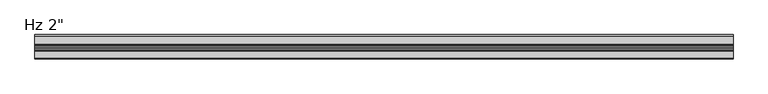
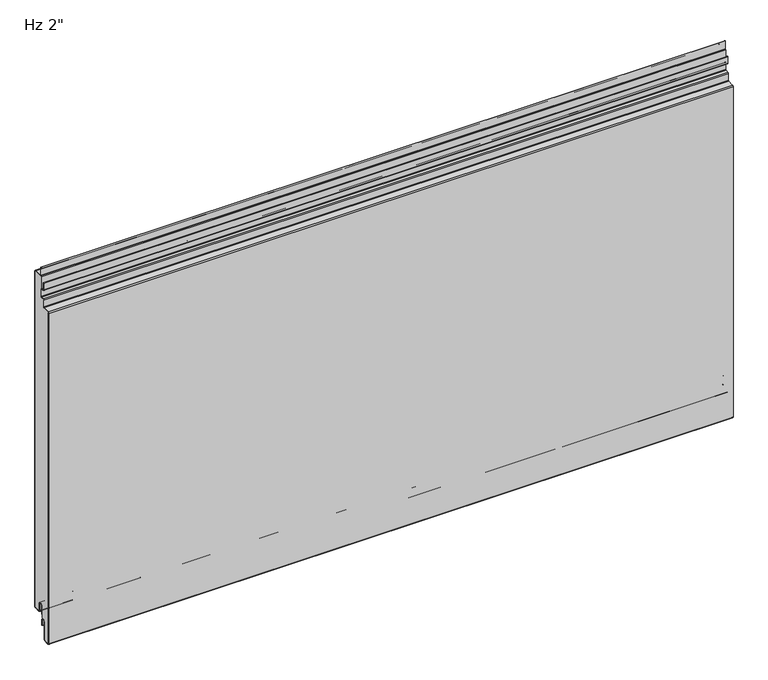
"""IFC4 building model written with IfcOpenShell, lengths in millimetres: plate geometry."""

from ifc_helpers import new_model, si_unit, point, frame, frame_2d, origin, place, context, project, spatial, polyline, circle_curve, ellipse_curve, trimmed, segment, composite_curve, outline, extrude, source, transform, mapped, element, save
from ifc_brep_helpers import plane_surface, cylinder_surface, revolved_surface, extruded_surface, advanced_brep


def plate_e706f19b(model_context):
    return source(origin(), model_context, "Body", "SolidModel", [
        extrude(outline(composite_curve([segment(polyline([(-22.8125, 716.9620957), (-22.8125, 760.20625), (-2.38125, 760.20625)]), True, "CONTINUOUS"), segment(trimmed(circle_curve(frame_2d((-2.38125, 758.825)), 1.38125), [point((-2.38125, 760.20625))], [point((-1.0, 758.825))], False, "CARTESIAN"), True, "CONTINUOUS"), segment(polyline([(-1.0, 758.825), (-1.0, 3.175)]), True, "CONTINUOUS"), segment(trimmed(circle_curve(frame_2d((-2.38125, 3.175)), 1.38125), [point((-1.0, 3.175))], [point((-2.38125, 1.79375))], False, "CARTESIAN"), True, "CONTINUOUS"), segment(polyline([(-2.38125, 1.79375), (-15.08125, 1.79375)]), True, "CONTINUOUS"), segment(trimmed(circle_curve(frame_2d((-15.08125, 3.175)), 1.38125), [point((-15.08125, 1.79375))], [point((-16.4625, 3.175))], False, "CARTESIAN"), True, "CONTINUOUS"), segment(polyline([(-16.4625, 3.175), (-16.4625, 19.05)]), True, "CONTINUOUS"), segment(trimmed(circle_curve(frame_2d((-21.43125, 19.05)), 4.96875), [point((-16.4625, 19.05))], [point((-26.4, 19.05))], True, "CARTESIAN"), True, "CONTINUOUS"), segment(polyline([(-26.4, 19.05), (-26.4, -6.9375), (-30.95625, -6.9375)]), True, "CONTINUOUS"), segment(trimmed(circle_curve(frame_2d((-30.95625, -11.90625)), 4.96875), [point((-30.95625, -6.9375))], [point((-35.925, -11.90625))], True, "CARTESIAN"), True, "CONTINUOUS"), segment(polyline([(-35.925, -11.90625), (-35.925, -50.0895546)]), True, "CONTINUOUS"), segment(trimmed(circle_curve(frame_2d((-37.30625, -50.0895546)), 1.38125), [point((-35.925, -50.0895546))], [point((-37.233961, -51.4689117))], False, "CARTESIAN"), True, "CONTINUOUS"), segment(polyline([(-37.233961, -51.4689117), (-48.346461, -52.0512931)]), True, "CONTINUOUS"), segment(trimmed(circle_curve(frame_2d((-48.41875, -50.6719361)), 1.38125), [point((-48.346461, -52.0512931))], [point((-49.8, -50.6719361))], False, "CARTESIAN"), True, "CONTINUOUS"), segment(polyline([(-49.8, -50.6719361), (-49.8, 693.8447607)]), True, "CONTINUOUS"), segment(trimmed(circle_curve(frame_2d((-48.41875, 693.8447607)), 1.38125), [point((-49.8, 693.8447607))], [point((-48.491039, 695.2241177))], False, "CARTESIAN"), True, "CONTINUOUS"), segment(polyline([(-48.491039, 695.2241177), (-34.7895807, 695.9421807)]), True, "CONTINUOUS"), segment(trimmed(circle_curve(frame_2d((-34.925, 698.5261347)), 2.5875), [point((-34.7895807, 695.9421807))], [point((-32.3375, 698.5261347))], True, "CARTESIAN"), True, "CONTINUOUS"), segment(polyline([(-32.3375, 698.5261347), (-32.3375, 712.6967085)]), True, "CONTINUOUS"), segment(trimmed(circle_curve(frame_2d((-30.95625, 712.6967085)), 1.38125), [point((-32.3375, 712.6967085))], [point((-31.028539, 714.0760655))], False, "CARTESIAN"), True, "CONTINUOUS"), segment(polyline([(-31.028539, 714.0760655), (-25.2645807, 714.3781418)]), True, "CONTINUOUS"), segment(trimmed(circle_curve(frame_2d((-25.4, 716.9620957)), 2.5875), [point((-25.2645807, 714.3781418))], [point((-22.8125, 716.9620957))], True, "CARTESIAN"), True, "CONTINUOUS")], self_intersect=False)), frame((-730.0, 0.0, 0.0), z_axis=(1.0, 0.0, 0.0), x_axis=(0.0, 1.0, 0.0)), (0.0, 0.0, 1.0), 1460.0),
        extrude(outline(composite_curve([segment(polyline([(-25.4, 0.79375), (-26.4, 0.79375), (-26.4, 19.05)]), True, "CONTINUOUS"), segment(trimmed(circle_curve(frame_2d((-21.43125, 19.05)), 4.96875), [point((-26.4, 19.05))], [point((-16.4625, 19.05))], False, "CARTESIAN"), True, "CONTINUOUS"), segment(polyline([(-16.4625, 19.05), (-16.4625, 3.175)]), True, "CONTINUOUS"), segment(trimmed(circle_curve(frame_2d((-15.08125, 3.175)), 1.38125), [point((-16.4625, 3.175))], [point((-15.08125, 1.79375))], True, "CARTESIAN"), True, "CONTINUOUS"), segment(polyline([(-15.08125, 1.79375), (-2.38125, 1.79375)]), True, "CONTINUOUS"), segment(trimmed(circle_curve(frame_2d((-2.38125, 3.175)), 1.38125), [point((-2.38125, 1.79375))], [point((-1.0, 3.175))], True, "CARTESIAN"), True, "CONTINUOUS"), segment(polyline([(-1.0, 3.175), (-1.0, 758.825)]), True, "CONTINUOUS"), segment(trimmed(circle_curve(frame_2d((-2.38125, 758.825)), 1.38125), [point((-1.0, 758.825))], [point((-2.38125, 760.20625))], True, "CARTESIAN"), True, "CONTINUOUS"), segment(polyline([(-2.38125, 760.20625), (-19.446875, 760.20625)]), True, "CONTINUOUS"), segment(trimmed(circle_curve(frame_2d((-19.446875, 762.79375)), 2.5875), [point((-19.446875, 760.20625))], [point((-22.034375, 762.79375))], False, "CARTESIAN"), True, "CONTINUOUS"), segment(polyline([(-22.034375, 762.79375), (-22.034375, 780.25625), (-21.034375, 780.25625), (-21.034375, 762.79375)]), True, "CONTINUOUS"), segment(trimmed(circle_curve(frame_2d((-19.446875, 762.79375)), 1.5875), [point((-21.034375, 762.79375))], [point((-19.446875, 761.20625))], True, "CARTESIAN"), True, "CONTINUOUS"), segment(polyline([(-19.446875, 761.20625), (-2.38125, 761.20625)]), True, "CONTINUOUS"), segment(trimmed(circle_curve(frame_2d((-2.38125, 758.825)), 2.38125), [point((-2.38125, 761.20625))], [point((0.0, 758.825))], False, "CARTESIAN"), True, "CONTINUOUS"), segment(polyline([(0.0, 758.825), (0.0, 3.175)]), True, "CONTINUOUS"), segment(trimmed(circle_curve(frame_2d((-2.38125, 3.175)), 2.38125), [point((0.0, 3.175))], [point((-2.38125, 0.79375))], False, "CARTESIAN"), True, "CONTINUOUS"), segment(polyline([(-2.38125, 0.79375), (-15.08125, 0.79375)]), True, "CONTINUOUS"), segment(trimmed(circle_curve(frame_2d((-15.08125, 3.175)), 2.38125), [point((-15.08125, 0.79375))], [point((-17.4625, 3.175))], False, "CARTESIAN"), True, "CONTINUOUS"), segment(polyline([(-17.4625, 3.175), (-17.4625, 19.05)]), True, "CONTINUOUS"), segment(trimmed(circle_curve(frame_2d((-21.43125, 19.05)), 3.96875), [point((-17.4625, 19.05))], [point((-25.4, 19.05))], True, "CARTESIAN"), True, "CONTINUOUS"), segment(polyline([(-25.4, 19.05), (-25.4, 0.79375)]), True, "CONTINUOUS")], self_intersect=False)), frame((-730.0, 0.0, 0.0), z_axis=(1.0, 0.0, 0.0), x_axis=(0.0, 1.0, 0.0)), (0.0, 0.0, 1.0), 1460.0),
        advanced_brep(
        [(-730.0, -25.4, -23.2314549), (-730.0, -26.9875, -23.2314549), (-730.0, -26.9875, -11.9205174), (-730.0, -34.925, -11.9205174), (-730.0, -34.925, -50.1038221), (-730.0, -37.181625, -52.4818086), (-730.0, -48.294125, -53.0641901), (-730.0, -50.8, -50.6862035), (-730.0, -50.8, 693.8447607), (-730.0, -48.543375, 696.2227473), (-730.0, -34.8419167, 696.9408103), (-730.0, -33.3375, 698.5261347), (-730.0, -33.3375, 712.6824411), (-730.0, -31.080875, 715.0604276), (-730.0, -25.3169167, 715.3625039), (-730.0, -23.8125, 716.9478283), (-730.0, -23.8125, 731.8232326), (-730.0, -25.4, 733.4107326), (-730.0, -29.5671875, 733.4107326), (-730.0, -31.9484375, 735.7919826), (-730.0, -31.9484375, 750.2836032), (-730.0, -30.1546875, 750.2836032), (-730.0, -30.1546875, 740.5544826), (-730.0, -30.9484375, 740.5544826), (-730.0, -30.9484375, 735.7919826), (-730.0, -29.5671875, 734.4107326), (-730.0, -25.4, 734.4107326), (-730.0, -22.8125, 731.8232326), (-730.0, -22.8125, 716.9478283), (-730.0, -25.2645807, 714.3638744), (-730.0, -31.028539, 714.0617981), (-730.0, -32.3375, 712.6824411), (-730.0, -32.3375, 698.5261347), (-730.0, -34.7895807, 695.9421807), (-730.0, -48.491039, 695.2241177), (-730.0, -49.8, 693.8447607), (-730.0, -49.8, -50.6862035), (-730.0, -48.346461, -52.0655606), (-730.0, -37.233961, -51.4831791), (-730.0, -35.925, -50.1038221), (-730.0, -35.925, -11.9205174), (-730.0, -25.9875, -11.9205174), (-730.0, -26.19375, -13.5080174), (-730.0, -25.4, -13.5080174), (730.0, -25.4, -23.2314549), (730.0, -25.4, -13.5080174), (730.0, -26.19375, -13.5080174), (730.0, -25.9875, -11.9205174), (730.0, -35.925, -11.9205174), (730.0, -35.925, -50.1038221), (730.0, -37.233961, -51.4831791), (730.0, -48.346461, -52.0655606), (730.0, -49.8, -50.6862035), (730.0, -49.8, 693.8447607), (730.0, -48.491039, 695.2241177), (730.0, -34.7895807, 695.9421807), (730.0, -32.3375, 698.5261347), (730.0, -32.3375, 712.6824411), (730.0, -31.028539, 714.0617981), (730.0, -25.2645807, 714.3638744), (730.0, -22.8125, 716.9478283), (730.0, -22.8125, 731.8232326), (730.0, -25.4, 734.4107326), (730.0, -29.5671875, 734.4107326), (730.0, -30.9484375, 735.7919826), (730.0, -30.9484375, 740.5544826), (730.0, -30.1546875, 740.5544826), (730.0, -30.1546875, 750.2836032), (730.0, -31.9484375, 750.2836032), (730.0, -31.9484375, 735.7919826), (730.0, -29.5671875, 733.4107326), (730.0, -25.4, 733.4107326), (730.0, -23.8125, 731.8232326), (730.0, -23.8125, 716.9478283), (730.0, -25.3169167, 715.3625039), (730.0, -31.080875, 715.0604276), (730.0, -33.3375, 712.6824411), (730.0, -33.3375, 698.5261347), (730.0, -34.8419167, 696.9408103), (730.0, -48.543375, 696.2227473), (730.0, -50.8, 693.8447607), (730.0, -50.8, -50.6862035), (730.0, -48.294125, -53.0641901), (730.0, -37.181625, -52.4818086), (730.0, -34.925, -50.1038221), (730.0, -34.925, -11.9205174), (730.0, -26.9875, -11.9205174), (730.0, -26.9875, -23.2314549)],
        [
            (0, 1, circle_curve(frame((-730.0, -26.19375, -23.2314549), z_axis=(-1.0, 0.0, 0.0), x_axis=(0.0, 0.0, -1.0)), 0.79375)),
            (1, 2),
            (2, 3, circle_curve(frame((-730.0, -30.95625, -11.9205174), z_axis=(1.0, 0.0, 0.0), x_axis=(0.0, 0.0, -1.0)), 3.96875)),
            (3, 4),
            (4, 5, circle_curve(frame((-730.0, -37.30625, -50.1038221), z_axis=(-1.0, 0.0, 0.0), x_axis=(0.0, 0.0, -1.0)), 2.38125)),
            (5, 6),
            (6, 7, circle_curve(frame((-730.0, -48.41875, -50.6862035), z_axis=(-1.0, 0.0, 0.0), x_axis=(0.0, 0.0, -1.0)), 2.38125)),
            (7, 8),
            (8, 9, circle_curve(frame((-730.0, -48.41875, 693.8447607), z_axis=(-1.0, 0.0, 0.0), x_axis=(0.0, 0.0, -1.0)), 2.38125)),
            (9, 10),
            (10, 11, circle_curve(frame((-730.0, -34.925, 698.5261347), z_axis=(1.0, 0.0, 0.0), x_axis=(0.0, 0.0, -1.0)), 1.5875)),
            (11, 12),
            (12, 13, circle_curve(frame((-730.0, -30.95625, 712.6824411), z_axis=(-1.0, 0.0, 0.0), x_axis=(0.0, 0.0, -1.0)), 2.38125)),
            (13, 14),
            (14, 15, circle_curve(frame((-730.0, -25.4, 716.9478283), z_axis=(1.0, 0.0, 0.0), x_axis=(0.0, 0.0, -1.0)), 1.5875)),
            (15, 16),
            (16, 17, circle_curve(frame((-730.0, -25.4, 731.8232326), z_axis=(1.0, 0.0, 0.0), x_axis=(0.0, 0.0, -1.0)), 1.5875)),
            (17, 18),
            (18, 19, circle_curve(frame((-730.0, -29.5671875, 735.7919826), z_axis=(-1.0, 0.0, 0.0), x_axis=(0.0, 0.0, -1.0)), 2.38125)),
            (19, 20),
            (20, 21, ellipse_curve(frame((-730.0, -31.0515625, 750.2836032), z_axis=(-1.0, 0.0, 0.0), x_axis=(0.0, 1.0, 0.0)), 0.896875, 0.7852275)),
            (21, 22),
            (22, 23),
            (23, 24),
            (24, 25, circle_curve(frame((-730.0, -29.5671875, 735.7919826), z_axis=(1.0, 0.0, 0.0), x_axis=(0.0, 0.0, -1.0)), 1.38125)),
            (25, 26),
            (26, 27, circle_curve(frame((-730.0, -25.4, 731.8232326), z_axis=(-1.0, 0.0, 0.0), x_axis=(0.0, 0.0, -1.0)), 2.5875)),
            (27, 28),
            (28, 29, circle_curve(frame((-730.0, -25.4, 716.9478283), z_axis=(-1.0, 0.0, 0.0), x_axis=(0.0, 0.0, -1.0)), 2.5875)),
            (29, 30),
            (30, 31, circle_curve(frame((-730.0, -30.95625, 712.6824411), z_axis=(1.0, 0.0, 0.0), x_axis=(0.0, 0.0, -1.0)), 1.38125)),
            (31, 32),
            (32, 33, circle_curve(frame((-730.0, -34.925, 698.5261347), z_axis=(-1.0, 0.0, 0.0), x_axis=(0.0, 0.0, -1.0)), 2.5875)),
            (33, 34),
            (34, 35, circle_curve(frame((-730.0, -48.41875, 693.8447607), z_axis=(1.0, 0.0, 0.0), x_axis=(0.0, 0.0, -1.0)), 1.38125)),
            (35, 36),
            (36, 37, circle_curve(frame((-730.0, -48.41875, -50.6862035), z_axis=(1.0, 0.0, 0.0), x_axis=(0.0, 0.0, -1.0)), 1.38125)),
            (37, 38),
            (38, 39, circle_curve(frame((-730.0, -37.30625, -50.1038221), z_axis=(1.0, 0.0, 0.0), x_axis=(0.0, 0.0, -1.0)), 1.38125)),
            (39, 40),
            (40, 41, circle_curve(frame((-730.0, -30.95625, -11.9205174), z_axis=(-1.0, 0.0, 0.0), x_axis=(0.0, 0.0, -1.0)), 4.96875)),
            (41, 42),
            (42, 43),
            (43, 0),
            (44, 45),
            (45, 46),
            (46, 47),
            (47, 48, circle_curve(frame((730.0, -30.95625, -11.9205174), z_axis=(1.0, 0.0, 0.0), x_axis=(0.0, 0.0, -1.0)), 4.96875)),
            (48, 49),
            (49, 50, circle_curve(frame((730.0, -37.30625, -50.1038221), z_axis=(-1.0, 0.0, 0.0), x_axis=(0.0, 0.0, -1.0)), 1.38125)),
            (50, 51),
            (51, 52, circle_curve(frame((730.0, -48.41875, -50.6862035), z_axis=(-1.0, 0.0, 0.0), x_axis=(0.0, 0.0, -1.0)), 1.38125)),
            (52, 53),
            (53, 54, circle_curve(frame((730.0, -48.41875, 693.8447607), z_axis=(-1.0, 0.0, 0.0), x_axis=(0.0, 0.0, -1.0)), 1.38125)),
            (54, 55),
            (55, 56, circle_curve(frame((730.0, -34.925, 698.5261347), z_axis=(1.0, 0.0, 0.0), x_axis=(0.0, 0.0, -1.0)), 2.5875)),
            (56, 57),
            (57, 58, circle_curve(frame((730.0, -30.95625, 712.6824411), z_axis=(-1.0, 0.0, 0.0), x_axis=(0.0, 0.0, -1.0)), 1.38125)),
            (58, 59),
            (59, 60, circle_curve(frame((730.0, -25.4, 716.9478283), z_axis=(1.0, 0.0, 0.0), x_axis=(0.0, 0.0, -1.0)), 2.5875)),
            (60, 61),
            (61, 62, circle_curve(frame((730.0, -25.4, 731.8232326), z_axis=(1.0, 0.0, 0.0), x_axis=(0.0, 0.0, -1.0)), 2.5875)),
            (62, 63),
            (63, 64, circle_curve(frame((730.0, -29.5671875, 735.7919826), z_axis=(-1.0, 0.0, 0.0), x_axis=(0.0, 0.0, -1.0)), 1.38125)),
            (64, 65),
            (65, 66),
            (66, 67),
            (67, 68, ellipse_curve(frame((730.0, -31.0515625, 750.2836032), z_axis=(1.0, 0.0, 0.0), x_axis=(0.0, 1.0, 0.0)), 0.896875, 0.7852275)),
            (68, 69),
            (69, 70, circle_curve(frame((730.0, -29.5671875, 735.7919826), z_axis=(1.0, 0.0, 0.0), x_axis=(0.0, 0.0, -1.0)), 2.38125)),
            (70, 71),
            (71, 72, circle_curve(frame((730.0, -25.4, 731.8232326), z_axis=(-1.0, 0.0, 0.0), x_axis=(0.0, 0.0, -1.0)), 1.5875)),
            (72, 73),
            (73, 74, circle_curve(frame((730.0, -25.4, 716.9478283), z_axis=(-1.0, 0.0, 0.0), x_axis=(0.0, 0.0, -1.0)), 1.5875)),
            (74, 75),
            (75, 76, circle_curve(frame((730.0, -30.95625, 712.6824411), z_axis=(1.0, 0.0, 0.0), x_axis=(0.0, 0.0, -1.0)), 2.38125)),
            (76, 77),
            (77, 78, circle_curve(frame((730.0, -34.925, 698.5261347), z_axis=(-1.0, 0.0, 0.0), x_axis=(0.0, 0.0, -1.0)), 1.5875)),
            (78, 79),
            (79, 80, circle_curve(frame((730.0, -48.41875, 693.8447607), z_axis=(1.0, 0.0, 0.0), x_axis=(0.0, 0.0, -1.0)), 2.38125)),
            (80, 81),
            (81, 82, circle_curve(frame((730.0, -48.41875, -50.6862035), z_axis=(1.0, 0.0, 0.0), x_axis=(0.0, 0.0, -1.0)), 2.38125)),
            (82, 83),
            (83, 84, circle_curve(frame((730.0, -37.30625, -50.1038221), z_axis=(1.0, 0.0, 0.0), x_axis=(0.0, 0.0, -1.0)), 2.38125)),
            (84, 85),
            (85, 86, circle_curve(frame((730.0, -30.95625, -11.9205174), z_axis=(-1.0, 0.0, 0.0), x_axis=(0.0, 0.0, -1.0)), 3.96875)),
            (86, 87),
            (87, 44, circle_curve(frame((730.0, -26.19375, -23.2314549), z_axis=(1.0, 0.0, 0.0), x_axis=(0.0, 0.0, -1.0)), 0.79375)),
            (36, 52),
            (51, 37),
            (50, 38),
            (49, 39),
            (48, 40),
            (47, 41),
            (42, 46),
            (45, 43),
            (22, 66),
            (65, 23),
            (21, 67),
            (20, 68),
            (34, 54),
            (53, 35),
            (32, 56),
            (55, 33),
            (30, 58),
            (57, 31),
            (28, 60),
            (59, 29),
            (24, 64),
            (63, 25),
            (26, 62),
            (61, 27),
            (19, 69),
            (17, 71),
            (70, 18),
            (15, 73),
            (72, 16),
            (13, 75),
            (74, 14),
            (11, 77),
            (76, 12),
            (9, 79),
            (78, 10),
            (7, 81),
            (80, 8),
            (5, 83),
            (82, 6),
            (3, 85),
            (84, 4),
            (1, 87),
            (86, 2),
            (44, 0),
        ],
        [
            plane_surface(frame((-730.0, -50.8, 381.0), z_axis=(-1.0, 0.0, 0.0), x_axis=(0.0, -1.0, 0.0))),
            plane_surface(frame((730.0, -50.8, 381.0), z_axis=(1.0, 0.0, 0.0), x_axis=(0.0, -1.0, 0.0))),
            revolved_surface(polyline([(730.0, -48.41875, -52.0674535), (-730.0, -48.41875, -52.0674535)]), (-730.0, -48.41875, -50.6862035), (1.0, 0.0, 0.0)),
            plane_surface(frame((-730.0, -37.233961, -51.4831791), z_axis=(0.0, -0.05233595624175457, 0.9986295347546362), x_axis=(1.0, 0.0, 0.0))),
            revolved_surface(polyline([(730.0, -37.30625, -51.485072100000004), (-730.0, -37.30625, -51.485072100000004)]), (-730.0, -37.30625, -50.1038221), (1.0, 0.0, 0.0)),
            plane_surface(frame((-730.0, -35.925, -11.9205174), z_axis=(0.0, -1.0, 0.0), x_axis=(1.0, 0.0, 0.0))),
            cylinder_surface(frame((-730.0, -30.95625, -11.9205174), z_axis=(-1.0, 0.0, 0.0), x_axis=(0.0, 0.0, -1.0)), 4.96875),
            plane_surface(frame((-730.0, -25.4, -13.5080174), z_axis=(0.0, 0.0, 1.0), x_axis=(1.0, 0.0, 0.0))),
            plane_surface(frame((-730.0, -26.19375, -13.5080174), z_axis=(0.0, 0.9916655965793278, -0.12883844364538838), x_axis=(1.0, 0.0, 0.0))),
            plane_surface(frame((-730.0, -30.9484375, 740.5544826), z_axis=(0.0, 0.0, -1.0), x_axis=(1.0, 0.0, 0.0))),
            plane_surface(frame((-730.0, -30.1546875, 740.5544826), z_axis=(0.0, 1.0, 0.0), x_axis=(1.0, 0.0, 0.0))),
            extruded_surface(trimmed(ellipse_curve(frame((-730.0, -31.0515625, 750.2836032), z_axis=(1.0, 0.0, 0.0), x_axis=(0.0, 1.0, 0.0)), 0.896875, 0.7852275), [point((-730.0, -30.1546875, 750.2836032))], [point((-730.0, -31.9484375, 750.2836032))], True, "CARTESIAN"), (1460.0, 0.0, 0.0), 1460.0),
            revolved_surface(polyline([(730.0, -48.41875, 692.4635107), (-730.0, -48.41875, 692.4635107)]), (-730.0, -48.41875, 693.8447607), (1.0, 0.0, 0.0)),
            cylinder_surface(frame((-730.0, -34.925, 698.5261347), z_axis=(-1.0, 0.0, 0.0), x_axis=(0.0, 0.0, -1.0)), 2.5875),
            plane_surface(frame((-730.0, -48.491039, 695.2241177), z_axis=(0.0, 0.05233595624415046, -0.9986295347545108), x_axis=(1.0, 0.0, 0.0))),
            plane_surface(frame((-730.0, -49.8, -50.6862035), z_axis=(0.0, 1.0, 0.0), x_axis=(1.0, 0.0, 0.0))),
            revolved_surface(polyline([(730.0, -30.95625, 711.3011911), (-730.0, -30.95625, 711.3011911)]), (-730.0, -30.95625, 712.6824411), (1.0, 0.0, 0.0)),
            cylinder_surface(frame((-730.0, -25.4, 716.9478283), z_axis=(-1.0, 0.0, 0.0), x_axis=(0.0, 0.0, -1.0)), 2.5875),
            plane_surface(frame((-730.0, -31.028539, 714.0617981), z_axis=(0.0, 0.052335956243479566, -0.9986295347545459), x_axis=(1.0, 0.0, 0.0))),
            plane_surface(frame((-730.0, -32.3375, 698.5261347), z_axis=(0.0, 1.0, 0.0), x_axis=(1.0, 0.0, 0.0))),
            revolved_surface(polyline([(730.0, -29.5671875, 734.4107326), (-730.0, -29.5671875, 734.4107326)]), (-730.0, -29.5671875, 735.7919826), (1.0, 0.0, 0.0)),
            cylinder_surface(frame((-730.0, -25.4, 731.8232326), z_axis=(-1.0, 0.0, 0.0), x_axis=(0.0, 0.0, -1.0)), 2.5875),
            plane_surface(frame((-730.0, -25.4, 734.4107326), z_axis=(0.0, 0.0, 1.0), x_axis=(1.0, 0.0, 0.0))),
            plane_surface(frame((-730.0, -30.9484375, 735.7919826), z_axis=(0.0, 1.0, 0.0), x_axis=(1.0, 0.0, 0.0))),
            plane_surface(frame((-730.0, -31.9484375, 750.2836032), z_axis=(0.0, -1.0, 0.0), x_axis=(1.0, 0.0, 0.0))),
            plane_surface(frame((-730.0, -29.5671875, 733.4107326), z_axis=(0.0, 0.0, -1.0), x_axis=(1.0, 0.0, 0.0))),
            cylinder_surface(frame((-730.0, -29.5671875, 735.7919826), z_axis=(-1.0, 0.0, 0.0), x_axis=(0.0, 0.0, -1.0)), 2.38125),
            plane_surface(frame((-730.0, -22.8125, 716.9478283), z_axis=(0.0, 1.0, 0.0), x_axis=(1.0, 0.0, 0.0))),
            plane_surface(frame((-730.0, -23.8125, 731.8232326), z_axis=(0.0, -1.0, 0.0), x_axis=(1.0, 0.0, 0.0))),
            plane_surface(frame((-730.0, -25.3169167, 715.3625039), z_axis=(0.0, -0.05233595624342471, 0.9986295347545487), x_axis=(1.0, 0.0, 0.0))),
            revolved_surface(polyline([(730.0, -25.4, 715.3603283), (-730.0, -25.4, 715.3603283)]), (-730.0, -25.4, 716.9478283), (1.0, 0.0, 0.0)),
            revolved_surface(polyline([(730.0, -25.4, 730.2357326), (-730.0, -25.4, 730.2357326)]), (-730.0, -25.4, 731.8232326), (1.0, 0.0, 0.0)),
            plane_surface(frame((-730.0, -33.3375, 712.6824411), z_axis=(0.0, -1.0, 0.0), x_axis=(1.0, 0.0, 0.0))),
            plane_surface(frame((-730.0, -34.8419167, 696.9408103), z_axis=(0.0, -0.0523359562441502, 0.9986295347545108), x_axis=(1.0, 0.0, 0.0))),
            revolved_surface(polyline([(730.0, -34.925, 696.9386347), (-730.0, -34.925, 696.9386347)]), (-730.0, -34.925, 698.5261347), (1.0, 0.0, 0.0)),
            cylinder_surface(frame((-730.0, -30.95625, 712.6824411), z_axis=(-1.0, 0.0, 0.0), x_axis=(0.0, 0.0, -1.0)), 2.38125),
            plane_surface(frame((-730.0, -50.8, 693.8447607), z_axis=(0.0, -1.0, 0.0), x_axis=(1.0, 0.0, 0.0))),
            plane_surface(frame((-730.0, -48.294125, -53.0641901), z_axis=(0.0, 0.05233595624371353, -0.9986295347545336), x_axis=(1.0, 0.0, 0.0))),
            cylinder_surface(frame((-730.0, -48.41875, -50.6862035), z_axis=(-1.0, 0.0, 0.0), x_axis=(0.0, 0.0, -1.0)), 2.38125),
            cylinder_surface(frame((-730.0, -48.41875, 693.8447607), z_axis=(-1.0, 0.0, 0.0), x_axis=(0.0, 0.0, -1.0)), 2.38125),
            plane_surface(frame((-730.0, -34.925, -50.1038221), z_axis=(0.0, 1.0, 0.0), x_axis=(1.0, 0.0, 0.0))),
            plane_surface(frame((-730.0, -26.9875, -11.9205174), z_axis=(0.0, -1.0, 0.0), x_axis=(1.0, 0.0, 0.0))),
            revolved_surface(polyline([(730.0, -30.95625, -15.8892674), (-730.0, -30.95625, -15.8892674)]), (-730.0, -30.95625, -11.9205174), (1.0, 0.0, 0.0)),
            cylinder_surface(frame((-730.0, -37.30625, -50.1038221), z_axis=(-1.0, 0.0, 0.0), x_axis=(0.0, 0.0, -1.0)), 2.38125),
            plane_surface(frame((-730.0, -25.4, -23.2314549), z_axis=(0.0, 1.0, 0.0), x_axis=(1.0, 0.0, 0.0))),
            cylinder_surface(frame((-730.0, -26.19375, -23.2314549), z_axis=(-1.0, 0.0, 0.0), x_axis=(0.0, 0.0, -1.0)), 0.79375),
        ],
        [
            (0, [[1, 2, 3, 4, 5, 6, 7, 8, 9, 10, 11, 12, 13, 14, 15, 16, 17, 18, 19, 20, 21, 22, 23, 24, 25, 26, 27, 28, 29, 30, 31, 32, 33, 34, 35, 36, 37, 38, 39, 40, 41, 42, 43, 44]]),
            (1, [[45, 46, 47, 48, 49, 50, 51, 52, 53, 54, 55, 56, 57, 58, 59, 60, 61, 62, 63, 64, 65, 66, 67, 68, 69, 70, 71, 72, 73, 74, 75, 76, 77, 78, 79, 80, 81, 82, 83, 84, 85, 86, 87, 88]]),
            (2, [[89, -52, 90, -37]]),
            (3, [[-90, -51, 91, -38]]),
            (4, [[-91, -50, 92, -39]]),
            (5, [[-92, -49, 93, -40]]),
            (6, [[-93, -48, 94, -41]]),
            (7, [[95, -46, 96, -43]]),
            (8, [[-94, -47, -95, -42]]),
            (9, [[97, -66, 98, -23]]),
            (10, [[99, -67, -97, -22]]),
            (11, [[100, -68, -99, -21]]),
            (12, [[101, -54, 102, -35]]),
            (13, [[103, -56, 104, -33]]),
            (14, [[-104, -55, -101, -34]]),
            (15, [[-102, -53, -89, -36]]),
            (16, [[105, -58, 106, -31]]),
            (17, [[107, -60, 108, -29]]),
            (18, [[-108, -59, -105, -30]]),
            (19, [[-106, -57, -103, -32]]),
            (20, [[109, -64, 110, -25]]),
            (21, [[111, -62, 112, -27]]),
            (22, [[-110, -63, -111, -26]]),
            (23, [[-98, -65, -109, -24]]),
            (24, [[113, -69, -100, -20]]),
            (25, [[114, -71, 115, -18]]),
            (26, [[-115, -70, -113, -19]]),
            (27, [[-112, -61, -107, -28]]),
            (28, [[116, -73, 117, -16]]),
            (29, [[118, -75, 119, -14]]),
            (30, [[-119, -74, -116, -15]]),
            (31, [[-117, -72, -114, -17]]),
            (32, [[120, -77, 121, -12]]),
            (33, [[122, -79, 123, -10]]),
            (34, [[-123, -78, -120, -11]]),
            (35, [[-121, -76, -118, -13]]),
            (36, [[124, -81, 125, -8]]),
            (37, [[126, -83, 127, -6]]),
            (38, [[-127, -82, -124, -7]]),
            (39, [[-125, -80, -122, -9]]),
            (40, [[128, -85, 129, -4]]),
            (41, [[130, -87, 131, -2]]),
            (42, [[-131, -86, -128, -3]]),
            (43, [[-129, -84, -126, -5]]),
            (44, [[-96, -45, 132, -44]]),
            (45, [[-132, -88, -130, -1]]),
        ],
    ),
    ])


if __name__ == "__main__":
    model = new_model("IFC4")
    model_context = context("Model", 3, world=origin())
    ifc_project = project(units=[si_unit("LENGTHUNIT", "METRE", prefix="MILLI")], contexts=[model_context])
    site = spatial("IfcSite", under=ifc_project)
    building = spatial("IfcBuilding", under=site)
    placement = place(None, origin())
    plate_shape = plate_e706f19b(model_context)
    element("IfcPlate", 1, ObjectType="KIP-30-DWHR-R19-CP-Hz-F : Hz 2\"", at=placement, inside=building, context=model_context, shape_type="MappedRepresentation", body=[
        mapped(plate_shape, transform((0.0, 0.0, 0.0), x_axis=(1.0, 0.0, 0.0), y_axis=(0.0, 1.0, 0.0), z_axis=(0.0, 0.0, 1.0))),
    ])
    save(model, "model.ifc")
